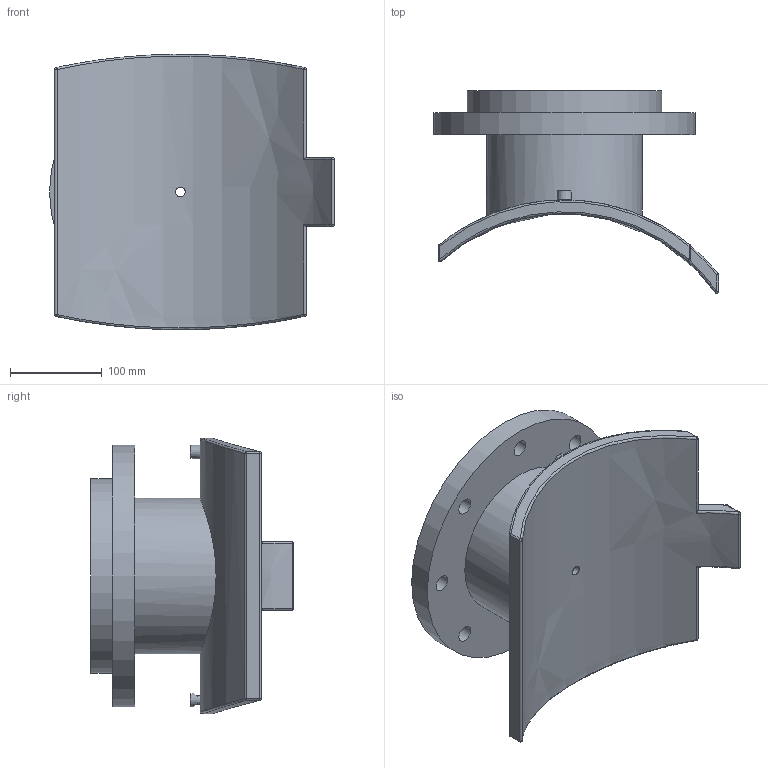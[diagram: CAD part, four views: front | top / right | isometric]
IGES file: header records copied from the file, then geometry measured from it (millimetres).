
Global section: file name: 495804400125T.ipt; native system: Autodesk Inventor 2015; preprocessor: unknown; author: KIM; date: 20171106.094358; units: millimetre
Bounding box: 310.25 x 220.54 x 299.92 mm (x, y, z)
Volume: 3224465 mm3; surface area: 435719.2 mm2
Topology: 2 solids, 2 shells, 75 faces, 156 edges, 95 vertices
Faces by surface type: cylinder 24, revolution 17, plane 16, sphere 12, bspline 4, cone 2
Full cylindrical faces by diameter (mm): 4 x2, 16 x1, 169.6 x1, 212 x1, 285 x1
